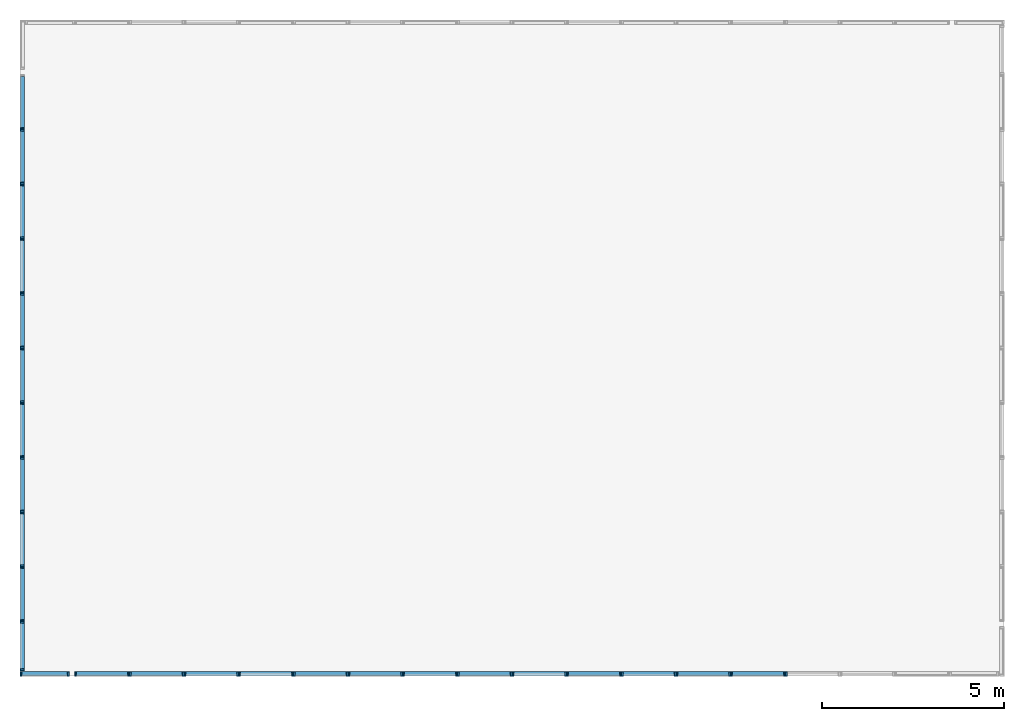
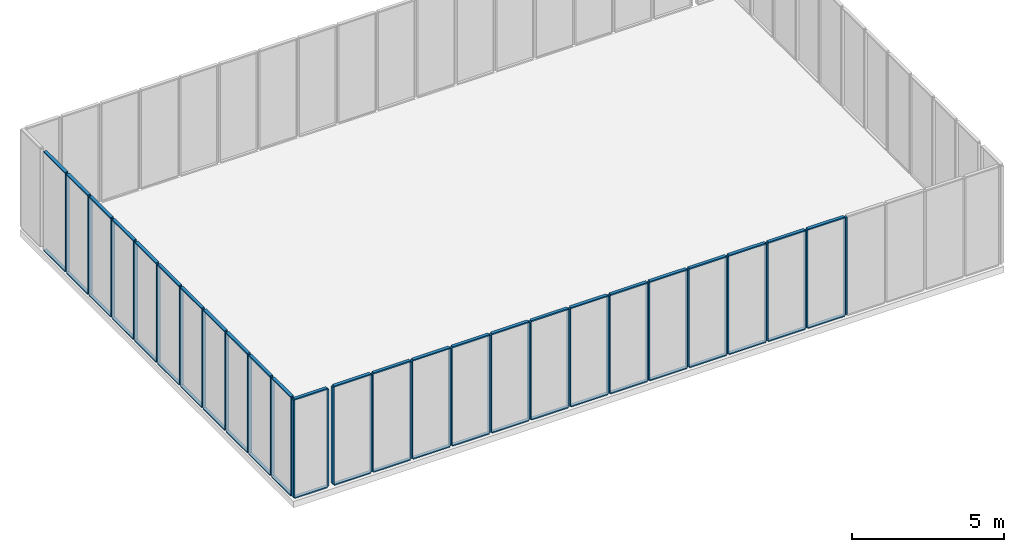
# One storey, part 1 of 4: 100 members.
"""IFC4 building model written with IfcOpenShell, lengths in metres."""

from ifc_helpers import new_model, si_unit, frame, origin_with_axes, place, context, subcontext, project, spatial, indexed_curve, outline, extrude, material, element, save


model = new_model("IFC4")

# Units and contexts
model_context = context("Model", 3, precision=1e-05, world=origin_with_axes())
body_context = subcontext(model_context, "Body", "Model", "MODEL_VIEW")
ifc_project = project(units=[si_unit("AREAUNIT", "SQUARE_METRE"), si_unit("VOLUMEUNIT", "CUBIC_METRE"), si_unit("LENGTHUNIT", "METRE")], contexts=[model_context])

# Site, building, storey
site = spatial("IfcSite", under=ifc_project, Name="Synthetic Site")
building = spatial("IfcBuilding", under=site, Name="Complex Tower")
storey_placement = place(None, frame((0.0, 0.0, 4.2), z_axis=(0.0, 0.0, 1.0), x_axis=(1.0, 0.0, 0.0)))
storey = spatial("IfcBuildingStorey", under=building, at=storey_placement, Name="L02", Elevation=4.2)

# Members
ifc_material = material(Name="Aluminium")
for number, where, z_axis, x_axis, name in (
    (1, (0.0, 0.0, 0.15000000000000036), (0.0, 0.0, 1.0), (1.0, 0.0, 0.0), "CT-L02-S-001-ML"),
    (2, (1.3, 0.0, 0.15000000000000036), (0.0, 0.0, 1.0), (1.0, 0.0, 0.0), "CT-L02-S-001-MR"),
):
    element("IfcMember", number, at=place(storey_placement, frame(where, z_axis=z_axis, x_axis=x_axis)), inside=storey, material=ifc_material, Name=name, PredefinedType="MULLION", context=body_context, shape_type="SweptSolid", body=[
        extrude(outline(indexed_curve([(0.0, 0.0), (0.0, 0.12), (0.05, 0.12), (0.05, 0.0), (0.0, 0.0)], self_intersect=False)), origin_with_axes(), (0.0, 0.0, 1.0), 3.9000000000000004),
    ])
for number, where, z_axis, x_axis, name in (
    (3, (0.05, 0.0, 0.10000000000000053), (0.0, 0.0, 1.0), (1.0, 0.0, 0.0), "CT-L02-S-001-FB"),
    (4, (0.05, 0.0, 4.05), (0.0, 0.0, 1.0), (1.0, 0.0, 0.0), "CT-L02-S-001-FT"),
):
    element("IfcMember", number, at=place(storey_placement, frame(where, z_axis=z_axis, x_axis=x_axis)), inside=storey, material=ifc_material, Name=name, PredefinedType="MULLION", context=body_context, shape_type="SweptSolid", body=[
        extrude(outline(indexed_curve([(0.0, 0.0), (0.0, 0.12), (1.25, 0.12), (1.25, 0.0), (0.0, 0.0)], self_intersect=False)), origin_with_axes(), (0.0, 0.0, 1.0), 0.05),
    ])
for number, where, z_axis, x_axis, name in (
    (5, (1.5, 0.0, 0.15000000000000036), (0.0, 0.0, 1.0), (1.0, 0.0, 0.0), "CT-L02-S-002-ML"),
    (6, (2.95, 0.0, 0.15000000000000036), (0.0, 0.0, 1.0), (1.0, 0.0, 0.0), "CT-L02-S-002-MR"),
):
    element("IfcMember", number, at=place(storey_placement, frame(where, z_axis=z_axis, x_axis=x_axis)), inside=storey, material=ifc_material, Name=name, PredefinedType="MULLION", context=body_context, shape_type="SweptSolid", body=[
        extrude(outline(indexed_curve([(0.0, 0.0), (0.0, 0.12), (0.05, 0.12), (0.05, 0.0), (0.0, 0.0)], self_intersect=False)), origin_with_axes(), (0.0, 0.0, 1.0), 3.9000000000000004),
    ])
for number, where, z_axis, x_axis, name in (
    (7, (1.55, 0.0, 0.10000000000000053), (0.0, 0.0, 1.0), (1.0, 0.0, 0.0), "CT-L02-S-002-FB"),
    (8, (1.55, 0.0, 4.05), (0.0, 0.0, 1.0), (1.0, 0.0, 0.0), "CT-L02-S-002-FT"),
):
    element("IfcMember", number, at=place(storey_placement, frame(where, z_axis=z_axis, x_axis=x_axis)), inside=storey, material=ifc_material, Name=name, PredefinedType="MULLION", context=body_context, shape_type="SweptSolid", body=[
        extrude(outline(indexed_curve([(0.0, 0.0), (0.0, 0.12), (1.4, 0.12), (1.4, 0.0), (0.0, 0.0)], self_intersect=False)), origin_with_axes(), (0.0, 0.0, 1.0), 0.05),
    ])
for number, where, z_axis, x_axis, name in (
    (9, (3.0, 0.0, 0.15000000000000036), (0.0, 0.0, 1.0), (1.0, 0.0, 0.0), "CT-L02-S-003-ML"),
    (10, (4.449999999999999, 0.0, 0.15000000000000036), (0.0, 0.0, 1.0), (1.0, 0.0, 0.0), "CT-L02-S-003-MR"),
):
    element("IfcMember", number, at=place(storey_placement, frame(where, z_axis=z_axis, x_axis=x_axis)), inside=storey, material=ifc_material, Name=name, PredefinedType="MULLION", context=body_context, shape_type="SweptSolid", body=[
        extrude(outline(indexed_curve([(0.0, 0.0), (0.0, 0.12), (0.05, 0.12), (0.05, 0.0), (0.0, 0.0)], self_intersect=False)), origin_with_axes(), (0.0, 0.0, 1.0), 3.9000000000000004),
    ])
for number, where, z_axis, x_axis, name in (
    (11, (3.05, 0.0, 0.10000000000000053), (0.0, 0.0, 1.0), (1.0, 0.0, 0.0), "CT-L02-S-003-FB"),
    (12, (3.05, 0.0, 4.05), (0.0, 0.0, 1.0), (1.0, 0.0, 0.0), "CT-L02-S-003-FT"),
):
    element("IfcMember", number, at=place(storey_placement, frame(where, z_axis=z_axis, x_axis=x_axis)), inside=storey, material=ifc_material, Name=name, PredefinedType="MULLION", context=body_context, shape_type="SweptSolid", body=[
        extrude(outline(indexed_curve([(0.0, 0.0), (0.0, 0.12), (1.4, 0.12), (1.4, 0.0), (0.0, 0.0)], self_intersect=False)), origin_with_axes(), (0.0, 0.0, 1.0), 0.05),
    ])
for number, where, z_axis, x_axis, name in (
    (13, (4.5, 0.0, 0.15000000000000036), (0.0, 0.0, 1.0), (1.0, 0.0, 0.0), "CT-L02-S-004-ML"),
    (14, (5.949999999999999, 0.0, 0.15000000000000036), (0.0, 0.0, 1.0), (1.0, 0.0, 0.0), "CT-L02-S-004-MR"),
):
    element("IfcMember", number, at=place(storey_placement, frame(where, z_axis=z_axis, x_axis=x_axis)), inside=storey, material=ifc_material, Name=name, PredefinedType="MULLION", context=body_context, shape_type="SweptSolid", body=[
        extrude(outline(indexed_curve([(0.0, 0.0), (0.0, 0.12), (0.05, 0.12), (0.05, 0.0), (0.0, 0.0)], self_intersect=False)), origin_with_axes(), (0.0, 0.0, 1.0), 3.9000000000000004),
    ])
for number, where, z_axis, x_axis, name in (
    (15, (4.55, 0.0, 0.10000000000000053), (0.0, 0.0, 1.0), (1.0, 0.0, 0.0), "CT-L02-S-004-FB"),
    (16, (4.55, 0.0, 4.05), (0.0, 0.0, 1.0), (1.0, 0.0, 0.0), "CT-L02-S-004-FT"),
):
    element("IfcMember", number, at=place(storey_placement, frame(where, z_axis=z_axis, x_axis=x_axis)), inside=storey, material=ifc_material, Name=name, PredefinedType="MULLION", context=body_context, shape_type="SweptSolid", body=[
        extrude(outline(indexed_curve([(0.0, 0.0), (0.0, 0.12), (1.4, 0.12), (1.4, 0.0), (0.0, 0.0)], self_intersect=False)), origin_with_axes(), (0.0, 0.0, 1.0), 0.05),
    ])
for number, where, z_axis, x_axis, name in (
    (17, (6.0, 0.0, 0.15000000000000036), (0.0, 0.0, 1.0), (1.0, 0.0, 0.0), "CT-L02-S-005-ML"),
    (18, (7.449999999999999, 0.0, 0.15000000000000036), (0.0, 0.0, 1.0), (1.0, 0.0, 0.0), "CT-L02-S-005-MR"),
):
    element("IfcMember", number, at=place(storey_placement, frame(where, z_axis=z_axis, x_axis=x_axis)), inside=storey, material=ifc_material, Name=name, PredefinedType="MULLION", context=body_context, shape_type="SweptSolid", body=[
        extrude(outline(indexed_curve([(0.0, 0.0), (0.0, 0.12), (0.05, 0.12), (0.05, 0.0), (0.0, 0.0)], self_intersect=False)), origin_with_axes(), (0.0, 0.0, 1.0), 3.9000000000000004),
    ])
for number, where, z_axis, x_axis, name in (
    (19, (6.05, 0.0, 0.10000000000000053), (0.0, 0.0, 1.0), (1.0, 0.0, 0.0), "CT-L02-S-005-FB"),
    (20, (6.05, 0.0, 4.05), (0.0, 0.0, 1.0), (1.0, 0.0, 0.0), "CT-L02-S-005-FT"),
):
    element("IfcMember", number, at=place(storey_placement, frame(where, z_axis=z_axis, x_axis=x_axis)), inside=storey, material=ifc_material, Name=name, PredefinedType="MULLION", context=body_context, shape_type="SweptSolid", body=[
        extrude(outline(indexed_curve([(0.0, 0.0), (0.0, 0.12), (1.4, 0.12), (1.4, 0.0), (0.0, 0.0)], self_intersect=False)), origin_with_axes(), (0.0, 0.0, 1.0), 0.05),
    ])
for number, where, z_axis, x_axis, name in (
    (21, (7.5, 0.0, 0.15000000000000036), (0.0, 0.0, 1.0), (1.0, 0.0, 0.0), "CT-L02-S-006-ML"),
    (22, (8.95, 0.0, 0.15000000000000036), (0.0, 0.0, 1.0), (1.0, 0.0, 0.0), "CT-L02-S-006-MR"),
):
    element("IfcMember", number, at=place(storey_placement, frame(where, z_axis=z_axis, x_axis=x_axis)), inside=storey, material=ifc_material, Name=name, PredefinedType="MULLION", context=body_context, shape_type="SweptSolid", body=[
        extrude(outline(indexed_curve([(0.0, 0.0), (0.0, 0.12), (0.05, 0.12), (0.05, 0.0), (0.0, 0.0)], self_intersect=False)), origin_with_axes(), (0.0, 0.0, 1.0), 3.9000000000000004),
    ])
for number, where, z_axis, x_axis, name in (
    (23, (7.55, 0.0, 0.10000000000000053), (0.0, 0.0, 1.0), (1.0, 0.0, 0.0), "CT-L02-S-006-FB"),
    (24, (7.55, 0.0, 4.05), (0.0, 0.0, 1.0), (1.0, 0.0, 0.0), "CT-L02-S-006-FT"),
):
    element("IfcMember", number, at=place(storey_placement, frame(where, z_axis=z_axis, x_axis=x_axis)), inside=storey, material=ifc_material, Name=name, PredefinedType="MULLION", context=body_context, shape_type="SweptSolid", body=[
        extrude(outline(indexed_curve([(0.0, 0.0), (0.0, 0.12), (1.4, 0.12), (1.4, 0.0), (0.0, 0.0)], self_intersect=False)), origin_with_axes(), (0.0, 0.0, 1.0), 0.05),
    ])
for number, where, z_axis, x_axis, name in (
    (25, (9.0, 0.0, 0.15000000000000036), (0.0, 0.0, 1.0), (1.0, 0.0, 0.0), "CT-L02-S-007-ML"),
    (26, (10.450000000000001, 0.0, 0.15000000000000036), (0.0, 0.0, 1.0), (1.0, 0.0, 0.0), "CT-L02-S-007-MR"),
):
    element("IfcMember", number, at=place(storey_placement, frame(where, z_axis=z_axis, x_axis=x_axis)), inside=storey, material=ifc_material, Name=name, PredefinedType="MULLION", context=body_context, shape_type="SweptSolid", body=[
        extrude(outline(indexed_curve([(0.0, 0.0), (0.0, 0.12), (0.05, 0.12), (0.05, 0.0), (0.0, 0.0)], self_intersect=False)), origin_with_axes(), (0.0, 0.0, 1.0), 3.9000000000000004),
    ])
for number, where, z_axis, x_axis, name in (
    (27, (9.05, 0.0, 0.10000000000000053), (0.0, 0.0, 1.0), (1.0, 0.0, 0.0), "CT-L02-S-007-FB"),
    (28, (9.05, 0.0, 4.05), (0.0, 0.0, 1.0), (1.0, 0.0, 0.0), "CT-L02-S-007-FT"),
):
    element("IfcMember", number, at=place(storey_placement, frame(where, z_axis=z_axis, x_axis=x_axis)), inside=storey, material=ifc_material, Name=name, PredefinedType="MULLION", context=body_context, shape_type="SweptSolid", body=[
        extrude(outline(indexed_curve([(0.0, 0.0), (0.0, 0.12), (1.4, 0.12), (1.4, 0.0), (0.0, 0.0)], self_intersect=False)), origin_with_axes(), (0.0, 0.0, 1.0), 0.05),
    ])
for number, where, z_axis, x_axis, name in (
    (29, (10.5, 0.0, 0.15000000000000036), (0.0, 0.0, 1.0), (1.0, 0.0, 0.0), "CT-L02-S-008-ML"),
    (30, (11.950000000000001, 0.0, 0.15000000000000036), (0.0, 0.0, 1.0), (1.0, 0.0, 0.0), "CT-L02-S-008-MR"),
):
    element("IfcMember", number, at=place(storey_placement, frame(where, z_axis=z_axis, x_axis=x_axis)), inside=storey, material=ifc_material, Name=name, PredefinedType="MULLION", context=body_context, shape_type="SweptSolid", body=[
        extrude(outline(indexed_curve([(0.0, 0.0), (0.0, 0.12), (0.05, 0.12), (0.05, 0.0), (0.0, 0.0)], self_intersect=False)), origin_with_axes(), (0.0, 0.0, 1.0), 3.9000000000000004),
    ])
for number, where, z_axis, x_axis, name in (
    (31, (10.55, 0.0, 0.10000000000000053), (0.0, 0.0, 1.0), (1.0, 0.0, 0.0), "CT-L02-S-008-FB"),
    (32, (10.55, 0.0, 4.05), (0.0, 0.0, 1.0), (1.0, 0.0, 0.0), "CT-L02-S-008-FT"),
):
    element("IfcMember", number, at=place(storey_placement, frame(where, z_axis=z_axis, x_axis=x_axis)), inside=storey, material=ifc_material, Name=name, PredefinedType="MULLION", context=body_context, shape_type="SweptSolid", body=[
        extrude(outline(indexed_curve([(0.0, 0.0), (0.0, 0.12), (1.4, 0.12), (1.4, 0.0), (0.0, 0.0)], self_intersect=False)), origin_with_axes(), (0.0, 0.0, 1.0), 0.05),
    ])
for number, where, z_axis, x_axis, name in (
    (33, (12.0, 0.0, 0.15000000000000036), (0.0, 0.0, 1.0), (1.0, 0.0, 0.0), "CT-L02-S-009-ML"),
    (34, (13.450000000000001, 0.0, 0.15000000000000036), (0.0, 0.0, 1.0), (1.0, 0.0, 0.0), "CT-L02-S-009-MR"),
):
    element("IfcMember", number, at=place(storey_placement, frame(where, z_axis=z_axis, x_axis=x_axis)), inside=storey, material=ifc_material, Name=name, PredefinedType="MULLION", context=body_context, shape_type="SweptSolid", body=[
        extrude(outline(indexed_curve([(0.0, 0.0), (0.0, 0.12), (0.05, 0.12), (0.05, 0.0), (0.0, 0.0)], self_intersect=False)), origin_with_axes(), (0.0, 0.0, 1.0), 3.9000000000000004),
    ])
for number, where, z_axis, x_axis, name in (
    (35, (12.05, 0.0, 0.10000000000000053), (0.0, 0.0, 1.0), (1.0, 0.0, 0.0), "CT-L02-S-009-FB"),
    (36, (12.05, 0.0, 4.05), (0.0, 0.0, 1.0), (1.0, 0.0, 0.0), "CT-L02-S-009-FT"),
):
    element("IfcMember", number, at=place(storey_placement, frame(where, z_axis=z_axis, x_axis=x_axis)), inside=storey, material=ifc_material, Name=name, PredefinedType="MULLION", context=body_context, shape_type="SweptSolid", body=[
        extrude(outline(indexed_curve([(0.0, 0.0), (0.0, 0.12), (1.4, 0.12), (1.4, 0.0), (0.0, 0.0)], self_intersect=False)), origin_with_axes(), (0.0, 0.0, 1.0), 0.05),
    ])
for number, where, z_axis, x_axis, name in (
    (37, (13.5, 0.0, 0.15000000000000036), (0.0, 0.0, 1.0), (1.0, 0.0, 0.0), "CT-L02-S-010-ML"),
    (38, (14.950000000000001, 0.0, 0.15000000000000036), (0.0, 0.0, 1.0), (1.0, 0.0, 0.0), "CT-L02-S-010-MR"),
):
    element("IfcMember", number, at=place(storey_placement, frame(where, z_axis=z_axis, x_axis=x_axis)), inside=storey, material=ifc_material, Name=name, PredefinedType="MULLION", context=body_context, shape_type="SweptSolid", body=[
        extrude(outline(indexed_curve([(0.0, 0.0), (0.0, 0.12), (0.05, 0.12), (0.05, 0.0), (0.0, 0.0)], self_intersect=False)), origin_with_axes(), (0.0, 0.0, 1.0), 3.9000000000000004),
    ])
for number, where, z_axis, x_axis, name in (
    (39, (13.55, 0.0, 0.10000000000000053), (0.0, 0.0, 1.0), (1.0, 0.0, 0.0), "CT-L02-S-010-FB"),
    (40, (13.55, 0.0, 4.05), (0.0, 0.0, 1.0), (1.0, 0.0, 0.0), "CT-L02-S-010-FT"),
):
    element("IfcMember", number, at=place(storey_placement, frame(where, z_axis=z_axis, x_axis=x_axis)), inside=storey, material=ifc_material, Name=name, PredefinedType="MULLION", context=body_context, shape_type="SweptSolid", body=[
        extrude(outline(indexed_curve([(0.0, 0.0), (0.0, 0.12), (1.4, 0.12), (1.4, 0.0), (0.0, 0.0)], self_intersect=False)), origin_with_axes(), (0.0, 0.0, 1.0), 0.05),
    ])
for number, where, z_axis, x_axis, name in (
    (41, (15.0, 0.0, 0.15000000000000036), (0.0, 0.0, 1.0), (1.0, 0.0, 0.0), "CT-L02-S-011-ML"),
    (42, (16.45, 0.0, 0.15000000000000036), (0.0, 0.0, 1.0), (1.0, 0.0, 0.0), "CT-L02-S-011-MR"),
):
    element("IfcMember", number, at=place(storey_placement, frame(where, z_axis=z_axis, x_axis=x_axis)), inside=storey, material=ifc_material, Name=name, PredefinedType="MULLION", context=body_context, shape_type="SweptSolid", body=[
        extrude(outline(indexed_curve([(0.0, 0.0), (0.0, 0.12), (0.05, 0.12), (0.05, 0.0), (0.0, 0.0)], self_intersect=False)), origin_with_axes(), (0.0, 0.0, 1.0), 3.9000000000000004),
    ])
for number, where, z_axis, x_axis, name in (
    (43, (15.05, 0.0, 0.10000000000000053), (0.0, 0.0, 1.0), (1.0, 0.0, 0.0), "CT-L02-S-011-FB"),
    (44, (15.05, 0.0, 4.05), (0.0, 0.0, 1.0), (1.0, 0.0, 0.0), "CT-L02-S-011-FT"),
):
    element("IfcMember", number, at=place(storey_placement, frame(where, z_axis=z_axis, x_axis=x_axis)), inside=storey, material=ifc_material, Name=name, PredefinedType="MULLION", context=body_context, shape_type="SweptSolid", body=[
        extrude(outline(indexed_curve([(0.0, 0.0), (0.0, 0.12), (1.4, 0.12), (1.4, 0.0), (0.0, 0.0)], self_intersect=False)), origin_with_axes(), (0.0, 0.0, 1.0), 0.05),
    ])
for number, where, z_axis, x_axis, name in (
    (45, (16.5, 0.0, 0.15000000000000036), (0.0, 0.0, 1.0), (1.0, 0.0, 0.0), "CT-L02-S-012-ML"),
    (46, (17.95, 0.0, 0.15000000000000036), (0.0, 0.0, 1.0), (1.0, 0.0, 0.0), "CT-L02-S-012-MR"),
):
    element("IfcMember", number, at=place(storey_placement, frame(where, z_axis=z_axis, x_axis=x_axis)), inside=storey, material=ifc_material, Name=name, PredefinedType="MULLION", context=body_context, shape_type="SweptSolid", body=[
        extrude(outline(indexed_curve([(0.0, 0.0), (0.0, 0.12), (0.05, 0.12), (0.05, 0.0), (0.0, 0.0)], self_intersect=False)), origin_with_axes(), (0.0, 0.0, 1.0), 3.9000000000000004),
    ])
for number, where, z_axis, x_axis, name in (
    (47, (16.55, 0.0, 0.10000000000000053), (0.0, 0.0, 1.0), (1.0, 0.0, 0.0), "CT-L02-S-012-FB"),
    (48, (16.55, 0.0, 4.05), (0.0, 0.0, 1.0), (1.0, 0.0, 0.0), "CT-L02-S-012-FT"),
):
    element("IfcMember", number, at=place(storey_placement, frame(where, z_axis=z_axis, x_axis=x_axis)), inside=storey, material=ifc_material, Name=name, PredefinedType="MULLION", context=body_context, shape_type="SweptSolid", body=[
        extrude(outline(indexed_curve([(0.0, 0.0), (0.0, 0.12), (1.4, 0.12), (1.4, 0.0), (0.0, 0.0)], self_intersect=False)), origin_with_axes(), (0.0, 0.0, 1.0), 0.05),
    ])
for number, where, z_axis, x_axis, name in (
    (49, (18.0, 0.0, 0.15000000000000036), (0.0, 0.0, 1.0), (1.0, 0.0, 0.0), "CT-L02-S-013-ML"),
    (50, (19.45, 0.0, 0.15000000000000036), (0.0, 0.0, 1.0), (1.0, 0.0, 0.0), "CT-L02-S-013-MR"),
):
    element("IfcMember", number, at=place(storey_placement, frame(where, z_axis=z_axis, x_axis=x_axis)), inside=storey, material=ifc_material, Name=name, PredefinedType="MULLION", context=body_context, shape_type="SweptSolid", body=[
        extrude(outline(indexed_curve([(0.0, 0.0), (0.0, 0.12), (0.05, 0.12), (0.05, 0.0), (0.0, 0.0)], self_intersect=False)), origin_with_axes(), (0.0, 0.0, 1.0), 3.9000000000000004),
    ])
for number, where, z_axis, x_axis, name in (
    (51, (18.05, 0.0, 0.10000000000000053), (0.0, 0.0, 1.0), (1.0, 0.0, 0.0), "CT-L02-S-013-FB"),
    (52, (18.05, 0.0, 4.05), (0.0, 0.0, 1.0), (1.0, 0.0, 0.0), "CT-L02-S-013-FT"),
):
    element("IfcMember", number, at=place(storey_placement, frame(where, z_axis=z_axis, x_axis=x_axis)), inside=storey, material=ifc_material, Name=name, PredefinedType="MULLION", context=body_context, shape_type="SweptSolid", body=[
        extrude(outline(indexed_curve([(0.0, 0.0), (0.0, 0.12), (1.4, 0.12), (1.4, 0.0), (0.0, 0.0)], self_intersect=False)), origin_with_axes(), (0.0, 0.0, 1.0), 0.05),
    ])
for number, where, z_axis, x_axis, name in (
    (53, (19.5, 0.0, 0.15000000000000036), (0.0, 0.0, 1.0), (1.0, 0.0, 0.0), "CT-L02-S-014-ML"),
    (54, (20.95, 0.0, 0.15000000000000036), (0.0, 0.0, 1.0), (1.0, 0.0, 0.0), "CT-L02-S-014-MR"),
):
    element("IfcMember", number, at=place(storey_placement, frame(where, z_axis=z_axis, x_axis=x_axis)), inside=storey, material=ifc_material, Name=name, PredefinedType="MULLION", context=body_context, shape_type="SweptSolid", body=[
        extrude(outline(indexed_curve([(0.0, 0.0), (0.0, 0.12), (0.05, 0.12), (0.05, 0.0), (0.0, 0.0)], self_intersect=False)), origin_with_axes(), (0.0, 0.0, 1.0), 3.9000000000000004),
    ])
for number, where, z_axis, x_axis, name in (
    (55, (19.55, 0.0, 0.10000000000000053), (0.0, 0.0, 1.0), (1.0, 0.0, 0.0), "CT-L02-S-014-FB"),
    (56, (19.55, 0.0, 4.05), (0.0, 0.0, 1.0), (1.0, 0.0, 0.0), "CT-L02-S-014-FT"),
):
    element("IfcMember", number, at=place(storey_placement, frame(where, z_axis=z_axis, x_axis=x_axis)), inside=storey, material=ifc_material, Name=name, PredefinedType="MULLION", context=body_context, shape_type="SweptSolid", body=[
        extrude(outline(indexed_curve([(0.0, 0.0), (0.0, 0.12), (1.4, 0.12), (1.4, 0.0), (0.0, 0.0)], self_intersect=False)), origin_with_axes(), (0.0, 0.0, 1.0), 0.05),
    ])
for number, where, z_axis, x_axis, name in (
    (57, (21.0, 0.0, 0.15000000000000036), (0.0, 0.0, 1.0), (1.0, 0.0, 0.0), "CT-L02-S-015-ML"),
    (58, (-5.419062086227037e-16, 15.049999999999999, 0.15000000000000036), (0.0, 0.0, 1.0), (-1.8369701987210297e-16, -1.0, 0.0), "CT-L02-W-002-MR"),
):
    element("IfcMember", number, at=place(storey_placement, frame(where, z_axis=z_axis, x_axis=x_axis)), inside=storey, material=ifc_material, Name=name, PredefinedType="MULLION", context=body_context, shape_type="SweptSolid", body=[
        extrude(outline(indexed_curve([(0.0, 0.0), (0.0, 0.12), (0.05, 0.12), (0.05, 0.0), (0.0, 0.0)], self_intersect=False)), origin_with_axes(), (0.0, 0.0, 1.0), 3.9000000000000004),
    ])
for number, where, z_axis, x_axis, name in (
    (59, (-2.847303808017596e-16, 16.45, 0.10000000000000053), (0.0, 0.0, 1.0), (-1.8369701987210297e-16, -1.0, 0.0), "CT-L02-W-002-FB"),
    (60, (-2.847303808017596e-16, 16.45, 4.05), (0.0, 0.0, 1.0), (-1.8369701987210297e-16, -1.0, 0.0), "CT-L02-W-002-FT"),
):
    element("IfcMember", number, at=place(storey_placement, frame(where, z_axis=z_axis, x_axis=x_axis)), inside=storey, material=ifc_material, Name=name, PredefinedType="MULLION", context=body_context, shape_type="SweptSolid", body=[
        extrude(outline(indexed_curve([(0.0, 0.0), (0.0, 0.12), (1.4, 0.12), (1.4, 0.0), (0.0, 0.0)], self_intersect=False)), origin_with_axes(), (0.0, 0.0, 1.0), 0.05),
    ])
for number, where, z_axis, x_axis, name in (
    (61, (-5.510910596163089e-16, 15.0, 0.15000000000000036), (0.0, 0.0, 1.0), (-1.8369701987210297e-16, -1.0, 0.0), "CT-L02-W-003-ML"),
    (62, (-8.174517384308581e-16, 13.549999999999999, 0.15000000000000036), (0.0, 0.0, 1.0), (-1.8369701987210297e-16, -1.0, 0.0), "CT-L02-W-003-MR"),
):
    element("IfcMember", number, at=place(storey_placement, frame(where, z_axis=z_axis, x_axis=x_axis)), inside=storey, material=ifc_material, Name=name, PredefinedType="MULLION", context=body_context, shape_type="SweptSolid", body=[
        extrude(outline(indexed_curve([(0.0, 0.0), (0.0, 0.12), (0.05, 0.12), (0.05, 0.0), (0.0, 0.0)], self_intersect=False)), origin_with_axes(), (0.0, 0.0, 1.0), 3.9000000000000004),
    ])
for number, where, z_axis, x_axis, name in (
    (63, (-5.60275910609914e-16, 14.95, 0.10000000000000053), (0.0, 0.0, 1.0), (-1.8369701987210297e-16, -1.0, 0.0), "CT-L02-W-003-FB"),
    (64, (-5.60275910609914e-16, 14.95, 4.05), (0.0, 0.0, 1.0), (-1.8369701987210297e-16, -1.0, 0.0), "CT-L02-W-003-FT"),
):
    element("IfcMember", number, at=place(storey_placement, frame(where, z_axis=z_axis, x_axis=x_axis)), inside=storey, material=ifc_material, Name=name, PredefinedType="MULLION", context=body_context, shape_type="SweptSolid", body=[
        extrude(outline(indexed_curve([(0.0, 0.0), (0.0, 0.12), (1.4, 0.12), (1.4, 0.0), (0.0, 0.0)], self_intersect=False)), origin_with_axes(), (0.0, 0.0, 1.0), 0.05),
    ])
for number, where, z_axis, x_axis, name in (
    (65, (-8.266365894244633e-16, 13.5, 0.15000000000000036), (0.0, 0.0, 1.0), (-1.8369701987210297e-16, -1.0, 0.0), "CT-L02-W-004-ML"),
    (66, (-1.0929972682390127e-15, 12.049999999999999, 0.15000000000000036), (0.0, 0.0, 1.0), (-1.8369701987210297e-16, -1.0, 0.0), "CT-L02-W-004-MR"),
):
    element("IfcMember", number, at=place(storey_placement, frame(where, z_axis=z_axis, x_axis=x_axis)), inside=storey, material=ifc_material, Name=name, PredefinedType="MULLION", context=body_context, shape_type="SweptSolid", body=[
        extrude(outline(indexed_curve([(0.0, 0.0), (0.0, 0.12), (0.05, 0.12), (0.05, 0.0), (0.0, 0.0)], self_intersect=False)), origin_with_axes(), (0.0, 0.0, 1.0), 3.9000000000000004),
    ])
for number, where, z_axis, x_axis, name in (
    (67, (-8.358214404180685e-16, 13.45, 0.10000000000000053), (0.0, 0.0, 1.0), (-1.8369701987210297e-16, -1.0, 0.0), "CT-L02-W-004-FB"),
    (68, (-8.358214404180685e-16, 13.45, 4.05), (0.0, 0.0, 1.0), (-1.8369701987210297e-16, -1.0, 0.0), "CT-L02-W-004-FT"),
):
    element("IfcMember", number, at=place(storey_placement, frame(where, z_axis=z_axis, x_axis=x_axis)), inside=storey, material=ifc_material, Name=name, PredefinedType="MULLION", context=body_context, shape_type="SweptSolid", body=[
        extrude(outline(indexed_curve([(0.0, 0.0), (0.0, 0.12), (1.4, 0.12), (1.4, 0.0), (0.0, 0.0)], self_intersect=False)), origin_with_axes(), (0.0, 0.0, 1.0), 0.05),
    ])
for number, where, z_axis, x_axis, name in (
    (69, (-1.1021821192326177e-15, 12.0, 0.15000000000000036), (0.0, 0.0, 1.0), (-1.8369701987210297e-16, -1.0, 0.0), "CT-L02-W-005-ML"),
    (70, (-1.3685427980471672e-15, 10.549999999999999, 0.15000000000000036), (0.0, 0.0, 1.0), (-1.8369701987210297e-16, -1.0, 0.0), "CT-L02-W-005-MR"),
):
    element("IfcMember", number, at=place(storey_placement, frame(where, z_axis=z_axis, x_axis=x_axis)), inside=storey, material=ifc_material, Name=name, PredefinedType="MULLION", context=body_context, shape_type="SweptSolid", body=[
        extrude(outline(indexed_curve([(0.0, 0.0), (0.0, 0.12), (0.05, 0.12), (0.05, 0.0), (0.0, 0.0)], self_intersect=False)), origin_with_axes(), (0.0, 0.0, 1.0), 3.9000000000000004),
    ])
for number, where, z_axis, x_axis, name in (
    (71, (-1.111366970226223e-15, 11.95, 0.10000000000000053), (0.0, 0.0, 1.0), (-1.8369701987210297e-16, -1.0, 0.0), "CT-L02-W-005-FB"),
    (72, (-1.111366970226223e-15, 11.95, 4.05), (0.0, 0.0, 1.0), (-1.8369701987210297e-16, -1.0, 0.0), "CT-L02-W-005-FT"),
):
    element("IfcMember", number, at=place(storey_placement, frame(where, z_axis=z_axis, x_axis=x_axis)), inside=storey, material=ifc_material, Name=name, PredefinedType="MULLION", context=body_context, shape_type="SweptSolid", body=[
        extrude(outline(indexed_curve([(0.0, 0.0), (0.0, 0.12), (1.4, 0.12), (1.4, 0.0), (0.0, 0.0)], self_intersect=False)), origin_with_axes(), (0.0, 0.0, 1.0), 0.05),
    ])
for number, where, z_axis, x_axis, name in (
    (73, (-1.3777276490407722e-15, 10.5, 0.15000000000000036), (0.0, 0.0, 1.0), (-1.8369701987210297e-16, -1.0, 0.0), "CT-L02-W-006-ML"),
    (74, (-1.6440883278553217e-15, 9.049999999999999, 0.15000000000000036), (0.0, 0.0, 1.0), (-1.8369701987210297e-16, -1.0, 0.0), "CT-L02-W-006-MR"),
):
    element("IfcMember", number, at=place(storey_placement, frame(where, z_axis=z_axis, x_axis=x_axis)), inside=storey, material=ifc_material, Name=name, PredefinedType="MULLION", context=body_context, shape_type="SweptSolid", body=[
        extrude(outline(indexed_curve([(0.0, 0.0), (0.0, 0.12), (0.05, 0.12), (0.05, 0.0), (0.0, 0.0)], self_intersect=False)), origin_with_axes(), (0.0, 0.0, 1.0), 3.9000000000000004),
    ])
for number, where, z_axis, x_axis, name in (
    (75, (-1.3869125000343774e-15, 10.45, 0.10000000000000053), (0.0, 0.0, 1.0), (-1.8369701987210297e-16, -1.0, 0.0), "CT-L02-W-006-FB"),
    (76, (-1.3869125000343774e-15, 10.45, 4.05), (0.0, 0.0, 1.0), (-1.8369701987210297e-16, -1.0, 0.0), "CT-L02-W-006-FT"),
):
    element("IfcMember", number, at=place(storey_placement, frame(where, z_axis=z_axis, x_axis=x_axis)), inside=storey, material=ifc_material, Name=name, PredefinedType="MULLION", context=body_context, shape_type="SweptSolid", body=[
        extrude(outline(indexed_curve([(0.0, 0.0), (0.0, 0.12), (1.4, 0.12), (1.4, 0.0), (0.0, 0.0)], self_intersect=False)), origin_with_axes(), (0.0, 0.0, 1.0), 0.05),
    ])
for number, where, z_axis, x_axis, name in (
    (77, (-1.6532731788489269e-15, 9.0, 0.15000000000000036), (0.0, 0.0, 1.0), (-1.8369701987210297e-16, -1.0, 0.0), "CT-L02-W-007-ML"),
    (78, (-1.919633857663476e-15, 7.549999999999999, 0.15000000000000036), (0.0, 0.0, 1.0), (-1.8369701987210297e-16, -1.0, 0.0), "CT-L02-W-007-MR"),
):
    element("IfcMember", number, at=place(storey_placement, frame(where, z_axis=z_axis, x_axis=x_axis)), inside=storey, material=ifc_material, Name=name, PredefinedType="MULLION", context=body_context, shape_type="SweptSolid", body=[
        extrude(outline(indexed_curve([(0.0, 0.0), (0.0, 0.12), (0.05, 0.12), (0.05, 0.0), (0.0, 0.0)], self_intersect=False)), origin_with_axes(), (0.0, 0.0, 1.0), 3.9000000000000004),
    ])
for number, where, z_axis, x_axis, name in (
    (79, (-1.662458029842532e-15, 8.95, 0.10000000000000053), (0.0, 0.0, 1.0), (-1.8369701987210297e-16, -1.0, 0.0), "CT-L02-W-007-FB"),
    (80, (-1.662458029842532e-15, 8.95, 4.05), (0.0, 0.0, 1.0), (-1.8369701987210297e-16, -1.0, 0.0), "CT-L02-W-007-FT"),
):
    element("IfcMember", number, at=place(storey_placement, frame(where, z_axis=z_axis, x_axis=x_axis)), inside=storey, material=ifc_material, Name=name, PredefinedType="MULLION", context=body_context, shape_type="SweptSolid", body=[
        extrude(outline(indexed_curve([(0.0, 0.0), (0.0, 0.12), (1.4, 0.12), (1.4, 0.0), (0.0, 0.0)], self_intersect=False)), origin_with_axes(), (0.0, 0.0, 1.0), 0.05),
    ])
for number, where, z_axis, x_axis, name in (
    (81, (-1.9288187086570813e-15, 7.499999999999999, 0.15000000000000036), (0.0, 0.0, 1.0), (-1.8369701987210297e-16, -1.0, 0.0), "CT-L02-W-008-ML"),
    (82, (-2.1951793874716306e-15, 6.049999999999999, 0.15000000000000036), (0.0, 0.0, 1.0), (-1.8369701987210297e-16, -1.0, 0.0), "CT-L02-W-008-MR"),
):
    element("IfcMember", number, at=place(storey_placement, frame(where, z_axis=z_axis, x_axis=x_axis)), inside=storey, material=ifc_material, Name=name, PredefinedType="MULLION", context=body_context, shape_type="SweptSolid", body=[
        extrude(outline(indexed_curve([(0.0, 0.0), (0.0, 0.12), (0.05, 0.12), (0.05, 0.0), (0.0, 0.0)], self_intersect=False)), origin_with_axes(), (0.0, 0.0, 1.0), 3.9000000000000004),
    ])
for number, where, z_axis, x_axis, name in (
    (83, (-1.9380035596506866e-15, 7.449999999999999, 0.10000000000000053), (0.0, 0.0, 1.0), (-1.8369701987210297e-16, -1.0, 0.0), "CT-L02-W-008-FB"),
    (84, (-1.9380035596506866e-15, 7.449999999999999, 4.05), (0.0, 0.0, 1.0), (-1.8369701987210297e-16, -1.0, 0.0), "CT-L02-W-008-FT"),
):
    element("IfcMember", number, at=place(storey_placement, frame(where, z_axis=z_axis, x_axis=x_axis)), inside=storey, material=ifc_material, Name=name, PredefinedType="MULLION", context=body_context, shape_type="SweptSolid", body=[
        extrude(outline(indexed_curve([(0.0, 0.0), (0.0, 0.12), (1.4, 0.12), (1.4, 0.0), (0.0, 0.0)], self_intersect=False)), origin_with_axes(), (0.0, 0.0, 1.0), 0.05),
    ])
for number, where, z_axis, x_axis, name in (
    (85, (-2.204364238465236e-15, 5.999999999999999, 0.15000000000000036), (0.0, 0.0, 1.0), (-1.8369701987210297e-16, -1.0, 0.0), "CT-L02-W-009-ML"),
    (86, (-2.470724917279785e-15, 4.549999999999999, 0.15000000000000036), (0.0, 0.0, 1.0), (-1.8369701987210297e-16, -1.0, 0.0), "CT-L02-W-009-MR"),
):
    element("IfcMember", number, at=place(storey_placement, frame(where, z_axis=z_axis, x_axis=x_axis)), inside=storey, material=ifc_material, Name=name, PredefinedType="MULLION", context=body_context, shape_type="SweptSolid", body=[
        extrude(outline(indexed_curve([(0.0, 0.0), (0.0, 0.12), (0.05, 0.12), (0.05, 0.0), (0.0, 0.0)], self_intersect=False)), origin_with_axes(), (0.0, 0.0, 1.0), 3.9000000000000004),
    ])
for number, where, z_axis, x_axis, name in (
    (87, (-2.213549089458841e-15, 5.949999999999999, 0.10000000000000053), (0.0, 0.0, 1.0), (-1.8369701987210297e-16, -1.0, 0.0), "CT-L02-W-009-FB"),
    (88, (-2.213549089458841e-15, 5.949999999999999, 4.05), (0.0, 0.0, 1.0), (-1.8369701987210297e-16, -1.0, 0.0), "CT-L02-W-009-FT"),
):
    element("IfcMember", number, at=place(storey_placement, frame(where, z_axis=z_axis, x_axis=x_axis)), inside=storey, material=ifc_material, Name=name, PredefinedType="MULLION", context=body_context, shape_type="SweptSolid", body=[
        extrude(outline(indexed_curve([(0.0, 0.0), (0.0, 0.12), (1.4, 0.12), (1.4, 0.0), (0.0, 0.0)], self_intersect=False)), origin_with_axes(), (0.0, 0.0, 1.0), 0.05),
    ])
for number, where, z_axis, x_axis, name in (
    (89, (-2.4799097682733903e-15, 4.499999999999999, 0.15000000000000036), (0.0, 0.0, 1.0), (-1.8369701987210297e-16, -1.0, 0.0), "CT-L02-W-010-ML"),
    (90, (-2.7462704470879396e-15, 3.0499999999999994, 0.15000000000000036), (0.0, 0.0, 1.0), (-1.8369701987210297e-16, -1.0, 0.0), "CT-L02-W-010-MR"),
):
    element("IfcMember", number, at=place(storey_placement, frame(where, z_axis=z_axis, x_axis=x_axis)), inside=storey, material=ifc_material, Name=name, PredefinedType="MULLION", context=body_context, shape_type="SweptSolid", body=[
        extrude(outline(indexed_curve([(0.0, 0.0), (0.0, 0.12), (0.05, 0.12), (0.05, 0.0), (0.0, 0.0)], self_intersect=False)), origin_with_axes(), (0.0, 0.0, 1.0), 3.9000000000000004),
    ])
for number, where, z_axis, x_axis, name in (
    (91, (-2.4890946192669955e-15, 4.449999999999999, 0.10000000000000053), (0.0, 0.0, 1.0), (-1.8369701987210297e-16, -1.0, 0.0), "CT-L02-W-010-FB"),
    (92, (-2.4890946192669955e-15, 4.449999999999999, 4.05), (0.0, 0.0, 1.0), (-1.8369701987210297e-16, -1.0, 0.0), "CT-L02-W-010-FT"),
):
    element("IfcMember", number, at=place(storey_placement, frame(where, z_axis=z_axis, x_axis=x_axis)), inside=storey, material=ifc_material, Name=name, PredefinedType="MULLION", context=body_context, shape_type="SweptSolid", body=[
        extrude(outline(indexed_curve([(0.0, 0.0), (0.0, 0.12), (1.4, 0.12), (1.4, 0.0), (0.0, 0.0)], self_intersect=False)), origin_with_axes(), (0.0, 0.0, 1.0), 0.05),
    ])
for number, where, z_axis, x_axis, name in (
    (93, (-2.7554552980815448e-15, 2.999999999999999, 0.15000000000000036), (0.0, 0.0, 1.0), (-1.8369701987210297e-16, -1.0, 0.0), "CT-L02-W-011-ML"),
    (94, (-3.021815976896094e-15, 1.5499999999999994, 0.15000000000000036), (0.0, 0.0, 1.0), (-1.8369701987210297e-16, -1.0, 0.0), "CT-L02-W-011-MR"),
):
    element("IfcMember", number, at=place(storey_placement, frame(where, z_axis=z_axis, x_axis=x_axis)), inside=storey, material=ifc_material, Name=name, PredefinedType="MULLION", context=body_context, shape_type="SweptSolid", body=[
        extrude(outline(indexed_curve([(0.0, 0.0), (0.0, 0.12), (0.05, 0.12), (0.05, 0.0), (0.0, 0.0)], self_intersect=False)), origin_with_axes(), (0.0, 0.0, 1.0), 3.9000000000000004),
    ])
for number, where, z_axis, x_axis, name in (
    (95, (-2.76464014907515e-15, 2.9499999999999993, 0.10000000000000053), (0.0, 0.0, 1.0), (-1.8369701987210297e-16, -1.0, 0.0), "CT-L02-W-011-FB"),
    (96, (-2.76464014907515e-15, 2.9499999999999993, 4.05), (0.0, 0.0, 1.0), (-1.8369701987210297e-16, -1.0, 0.0), "CT-L02-W-011-FT"),
):
    element("IfcMember", number, at=place(storey_placement, frame(where, z_axis=z_axis, x_axis=x_axis)), inside=storey, material=ifc_material, Name=name, PredefinedType="MULLION", context=body_context, shape_type="SweptSolid", body=[
        extrude(outline(indexed_curve([(0.0, 0.0), (0.0, 0.12), (1.4, 0.12), (1.4, 0.0), (0.0, 0.0)], self_intersect=False)), origin_with_axes(), (0.0, 0.0, 1.0), 0.05),
    ])
for number, where, z_axis, x_axis, name in (
    (97, (-3.031000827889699e-15, 1.4999999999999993, 0.15000000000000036), (0.0, 0.0, 1.0), (-1.8369701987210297e-16, -1.0, 0.0), "CT-L02-W-012-ML"),
    (98, (-3.269806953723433e-15, 0.1999999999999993, 0.15000000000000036), (0.0, 0.0, 1.0), (-1.8369701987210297e-16, -1.0, 0.0), "CT-L02-W-012-MR"),
):
    element("IfcMember", number, at=place(storey_placement, frame(where, z_axis=z_axis, x_axis=x_axis)), inside=storey, material=ifc_material, Name=name, PredefinedType="MULLION", context=body_context, shape_type="SweptSolid", body=[
        extrude(outline(indexed_curve([(0.0, 0.0), (0.0, 0.12), (0.05, 0.12), (0.05, 0.0), (0.0, 0.0)], self_intersect=False)), origin_with_axes(), (0.0, 0.0, 1.0), 3.9000000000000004),
    ])
for number, where, z_axis, x_axis, name in (
    (99, (-3.040185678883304e-15, 1.4499999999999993, 0.10000000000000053), (0.0, 0.0, 1.0), (-1.8369701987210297e-16, -1.0, 0.0), "CT-L02-W-012-FB"),
    (100, (-3.040185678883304e-15, 1.4499999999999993, 4.05), (0.0, 0.0, 1.0), (-1.8369701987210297e-16, -1.0, 0.0), "CT-L02-W-012-FT"),
):
    element("IfcMember", number, at=place(storey_placement, frame(where, z_axis=z_axis, x_axis=x_axis)), inside=storey, material=ifc_material, Name=name, PredefinedType="MULLION", context=body_context, shape_type="SweptSolid", body=[
        extrude(outline(indexed_curve([(0.0, 0.0), (0.0, 0.12), (1.25, 0.12), (1.25, 0.0), (0.0, 0.0)], self_intersect=False)), origin_with_axes(), (0.0, 0.0, 1.0), 0.05),
    ])

save(model, "model.ifc")
